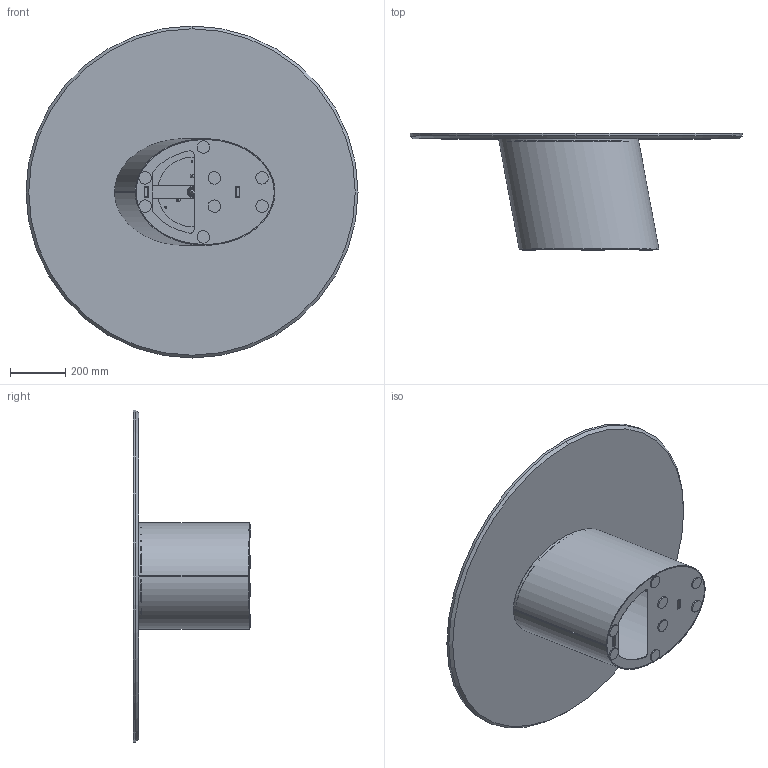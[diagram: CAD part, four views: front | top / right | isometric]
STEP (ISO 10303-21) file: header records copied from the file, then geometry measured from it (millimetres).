
FILE_DESCRIPTION (( 'STEP AP203' ), '1' );
FILE_NAME ('D214M.STEP', '2024-08-07T11:24:30', ( '' ), ( '' ), 'SwSTEP 2.0', 'SolidWorks 2022', '' );
FILE_SCHEMA (( 'CONFIG_CONTROL_DESIGN' ));
Length unit declared in the file: millimetre
Products named in the file (9): Parte2^Dxxxx-00-DORADO LOW; M0X-00- D. piani marmo_D.1200; M0XMXX-00-Piani Rotondi in marmo_D.120 CON PIASTRA; D214M; M8xXXmm_M8x24mm; D2B000001-00-BASAMENTO DORADO LOW H420_Default<A macchina>; M8xXXmm_M8x20mm; P0000003-00-STAFFA DI FISSAGGIO DIAMETRO 250_P0000003-250mm normale; P0000005-00-FILETTO M24 CON FORO H.20mm
Assembly tree (17 placements, depth 3):
  D214M
    D2B000001-00-BASAMENTO DORADO LOW H420_Default<A macchina>
    Parte2^Dxxxx-00-DORADO LOW  x8
    M0XMXX-00-Piani Rotondi in marmo_D.120 CON PIASTRA
      M0X-00- D. piani marmo_D.1200
      P0000003-00-STAFFA DI FISSAGGIO DIAMETRO 250_P0000003-250mm normale
      M8xXXmm_M8x24mm
      P0000005-00-FILETTO M24 CON FORO H.20mm
      M8xXXmm_M8x20mm  x3
Bounding box: 1200 x 425 x 1200 mm (x, y, z)
Volume: 24991530 mm3; surface area: 4108165 mm2
Topology: 22 solids, 22 shells, 357 faces, 843 edges, 522 vertices
Faces by surface type: plane 142, cylinder 120, cone 62, bspline 17, torus 16
Entity records: 14238 total; most frequent: CARTESIAN_POINT 6923, ORIENTED_EDGE 1290, DIRECTION 1253, EDGE_CURVE 645, AXIS2_PLACEMENT_3D 479, VERTEX_POINT 414, EDGE_LOOP 301, LINE 295
